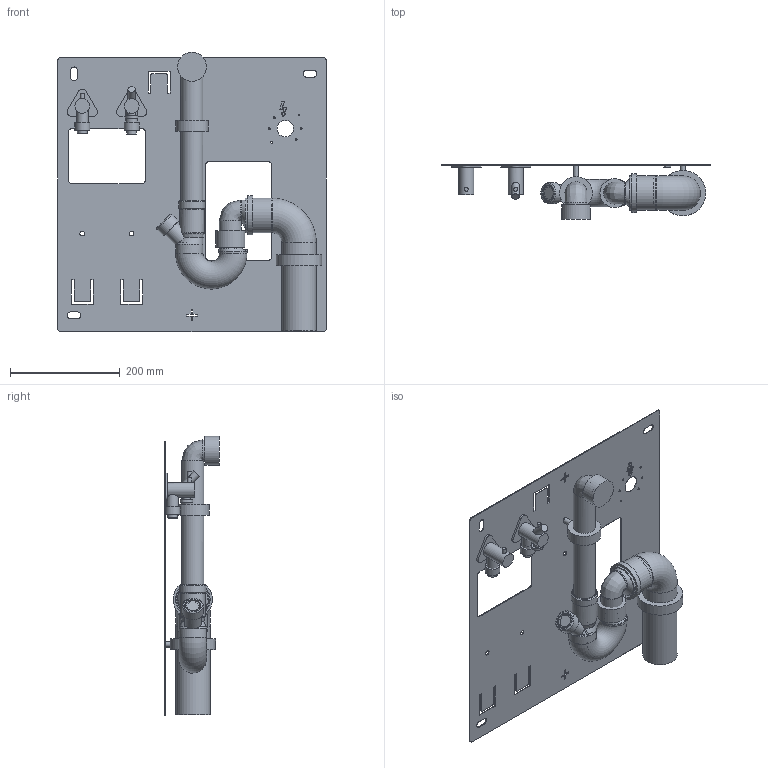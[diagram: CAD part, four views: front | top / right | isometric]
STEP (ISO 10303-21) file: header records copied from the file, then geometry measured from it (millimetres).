
FILE_DESCRIPTION(('STEP AP214'),'1');
FILE_NAME('NYFFix_7940L.STP','2025-09-02T13:22:54',(' '),(' '),'Spatial InterOp 3D',' ',' ');
FILE_SCHEMA(('AUTOMOTIVE_DESIGN { 1 0 10303 214 1 1 1 1 }'));
Length unit declared in the file: millimetre
Products named in the file (1): Torus
Bounding box: 490 x 100 x 509.28 mm (x, y, z)
Volume: 1017014.9 mm3; surface area: 826113.5 mm2
Topology: 21 solids, 21 shells, 445 faces, 1134 edges, 733 vertices
Faces by surface type: cylinder 204, plane 186, cone 21, torus 19, bspline 15
Full cylindrical faces by diameter (mm): 3 x6, 5.1 x6, 7 x2, 8.5 x5, 10 x2, 13.867 x1, 14 x1, 17 x1, 17.5 x2, 21 x2, 22 x1, 22.622 x1, 26.818 x2, 27 x2, 30 x2, 30.2 x2, 33.249 x2, 36 x3, 36.1 x2, 38 x1, 39 x1, 40 x5, 40.1 x2, 40.5 x1, 40.625 x1, 44.5 x6, 46 x2, 48 x2, 48.318 x1, 50 x2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
Entity records: 16048 total; most frequent: CARTESIAN_POINT 4049, DIRECTION 2227, ORIENTED_EDGE 1948, EDGE_CURVE 974, AXIS2_PLACEMENT_3D 900, VERTEX_POINT 700, EDGE_LOOP 652, ADVANCED_FACE 445
